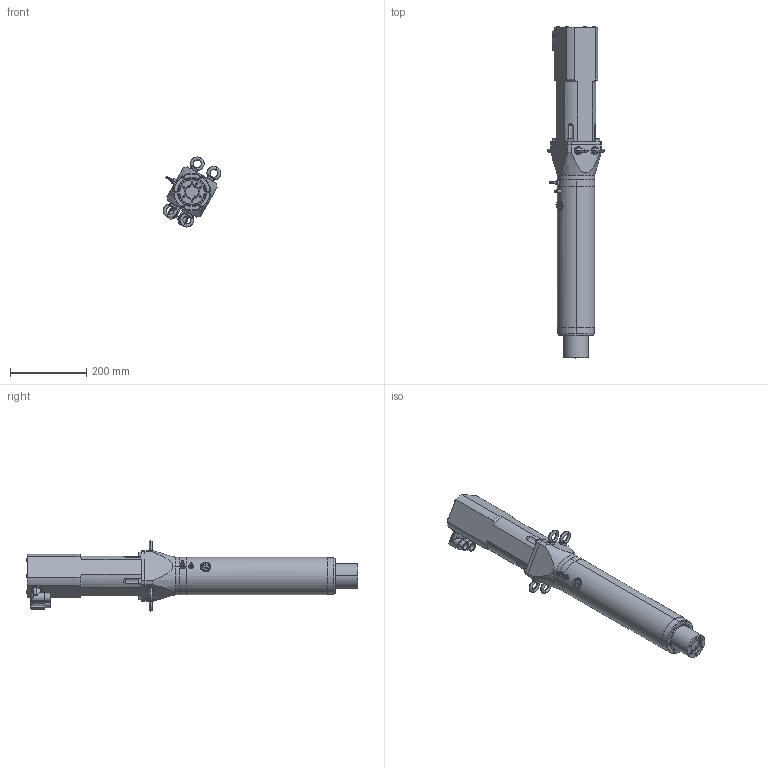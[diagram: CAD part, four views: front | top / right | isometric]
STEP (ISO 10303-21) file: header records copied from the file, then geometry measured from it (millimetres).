
FILE_DESCRIPTION (( 'STEP AP203' ), '1' );
FILE_NAME ('LN5I0100_020_030H.STEP', '2019-04-17T07:37:47', ( '' ), ( '' ), 'SwSTEP 2.0', 'SolidWorks 2016', '' );
FILE_SCHEMA (( 'CONFIG_CONTROL_DESIGN' ));
Length unit declared in the file: millimetre
Products named in the file (1): LN5I0100_020_030H
Bounding box: 150.22 x 871 x 183.96 mm (x, y, z)
Volume: 5654812.7 mm3; surface area: 639499.1 mm2
Topology: 21 solids, 21 shells, 844 faces, 2023 edges, 1214 vertices
Faces by surface type: cylinder 346, plane 249, cone 145, torus 52, bspline 50, sphere 2
Entity records: 28726 total; most frequent: CARTESIAN_POINT 9280, DIRECTION 4221, ORIENTED_EDGE 3866, EDGE_CURVE 1933, AXIS2_PLACEMENT_3D 1699, VERTEX_POINT 1214, EDGE_LOOP 999, CIRCLE 904
